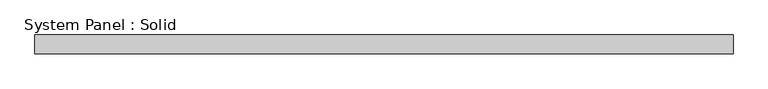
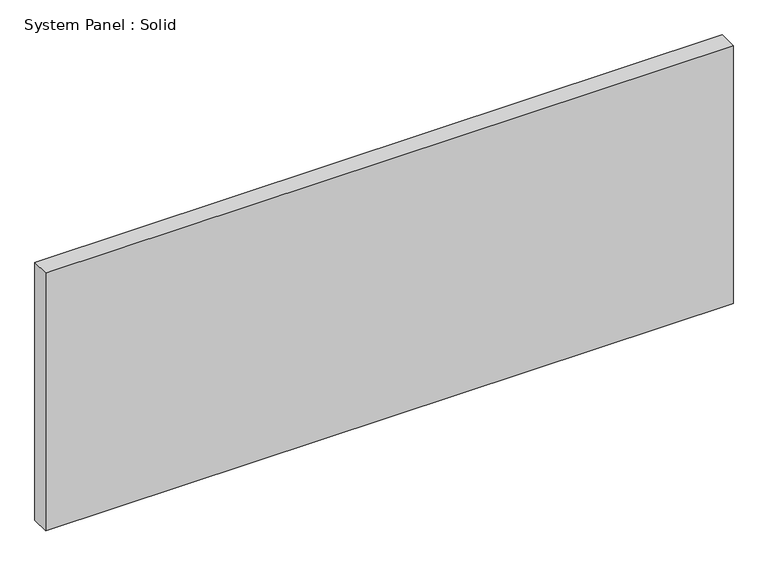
"""IFC4 building model written with IfcOpenShell, lengths in millimetres: plate geometry, System Panel : Solid."""

from ifc_helpers import new_model, si_unit, origin, origin_with_axes, place, context, project, spatial, polyline, outline, extrude, source, transform, mapped, element, save


def system_panel_solid_52d708f1(model_context):
    return source(origin(), model_context, "Body", "SweptSolid", [
        extrude(outline(polyline([(1176.8760751, -19.05), (-1176.8760751, -19.05), (-1176.8760751, 44.45), (1176.8760751, 44.45), (1176.8760751, -19.05)])), origin_with_axes(), (0.0, 0.0, 1.0), 934.4542378),
    ])


if __name__ == "__main__":
    model = new_model("IFC4")
    model_context = context("Model", 3, world=origin())
    ifc_project = project(units=[si_unit("LENGTHUNIT", "METRE", prefix="MILLI")], contexts=[model_context])
    site = spatial("IfcSite", under=ifc_project)
    building = spatial("IfcBuilding", under=site)
    placement = place(None, origin())
    system_panel_solid_shape = system_panel_solid_52d708f1(model_context)
    element("IfcPlate", 1, ObjectType="System Panel : Solid", at=placement, inside=building, context=model_context, shape_type="MappedRepresentation", body=[
        mapped(system_panel_solid_shape, transform((0.0, 0.0, 0.0), x_axis=(1.0, 0.0, 0.0), y_axis=(0.0, 1.0, 0.0), z_axis=(0.0, 0.0, 1.0))),
    ])
    save(model, "model.ifc")
